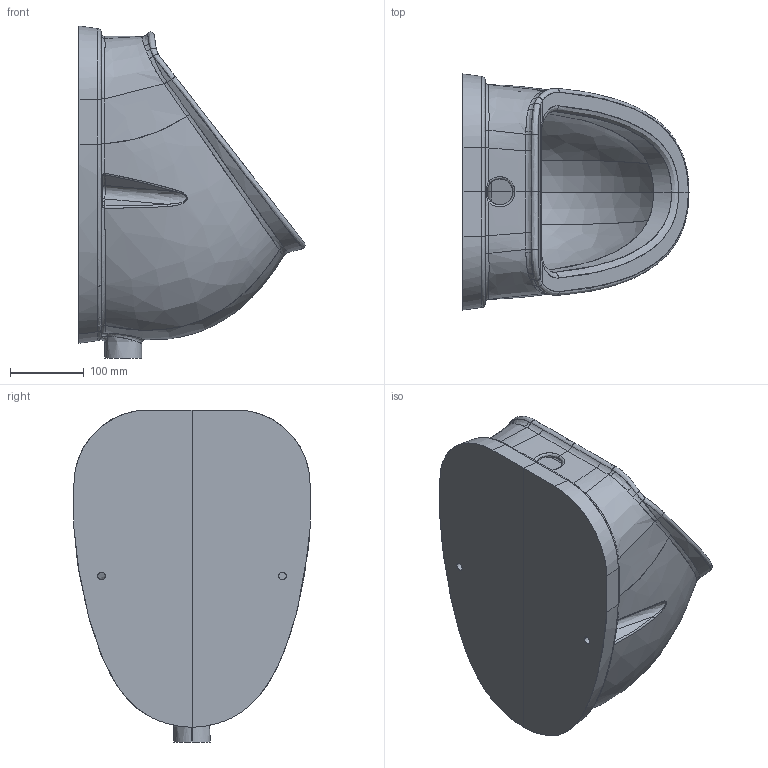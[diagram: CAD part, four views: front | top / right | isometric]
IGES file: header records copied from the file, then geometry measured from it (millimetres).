
Start section: START RECORD GO HERE.
Global section: file name: 7003_3D.igs; native system: DASSAULT SYSTEMES CATIA V5 R19 - www.3ds.com; preprocessor: CATIA Version 5 Release 19 SP 5 ; author: gioge; organization: LAPTOP-G94B6G74; date: 20201024.133712; units: millimetre
Bounding box: 306.44 x 320 x 450 mm (x, y, z)
Surface area: 669653.3 mm2 (no closed solid volume)
Topology: 0 solids, 0 shells, 210 faces, 972 edges, 970 vertices
Faces by surface type: bspline 148, revolution 34, plane 24, extrusion 4
